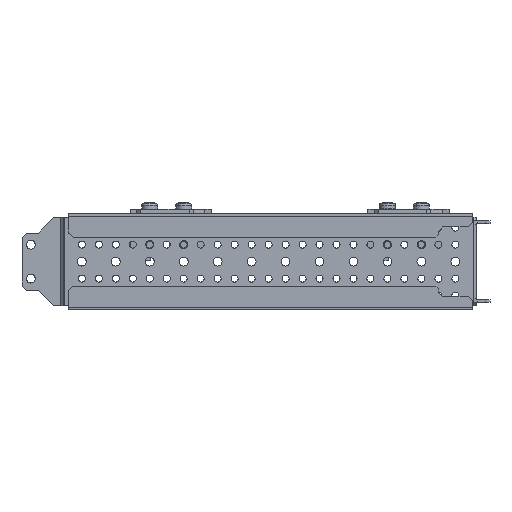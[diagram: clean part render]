
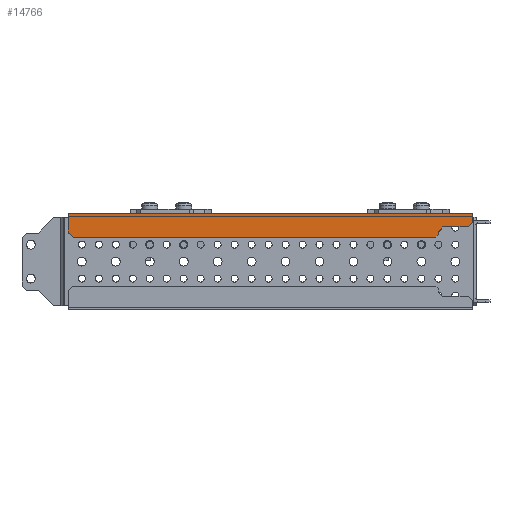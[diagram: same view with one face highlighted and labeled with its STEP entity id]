
A CAD part, front view. The second image highlights one B-rep face of the part: STEP entity #14766.
In plain terms, the highlighted planar face has unit normal (0, -1, 0) as drawn and (0, 1, 0) by its records, which use the part's own axes.
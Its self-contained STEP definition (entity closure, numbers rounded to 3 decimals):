
#57 = LINE ( 'NONE', #1538, #2800 ) ;
#533 = CARTESIAN_POINT ( 'NONE',  ( 146.989, 279., -25.5 ) ) ;
#803 = CARTESIAN_POINT ( 'NONE',  ( 124.989, 279., -22.5 ) ) ;
#1012 = AXIS2_PLACEMENT_3D ( 'NONE', #6984, #13058, #17615 ) ;
#1373 = EDGE_CURVE ( 'NONE', #3730, #9313, #57, .T. ) ;
#1502 = EDGE_CURVE ( 'NONE', #9733, #19065, #12788, .T. ) ;
#1538 = CARTESIAN_POINT ( 'NONE',  ( 37.373, 279., 117.655 ) ) ;
#1562 = VERTEX_POINT ( 'NONE', #12045 ) ;
#2057 = CARTESIAN_POINT ( 'NONE',  ( 127.989, 279., -25.5 ) ) ;
#2400 = LINE ( 'NONE', #16127, #10228 ) ;
#2766 = EDGE_LOOP ( 'NONE', ( #19436, #14630, #11723, #13113, #4324, #17359, #13589, #8988, #11158, #13672, #3011, #15131 ) ) ;
#2800 = VECTOR ( 'NONE', #2828, 1000. ) ;
#2828 = DIRECTION ( 'NONE',  ( 0.8, 0., 0.6 ) ) ;
#2845 = VECTOR ( 'NONE', #7290, 1000. ) ;
#2950 = VERTEX_POINT ( 'NONE', #803 ) ;
#3011 = ORIENTED_EDGE ( 'NONE', *, *, #15360, .T. ) ;
#3036 = CARTESIAN_POINT ( 'NONE',  ( 149.989, 279., -28.5 ) ) ;
#3475 = CARTESIAN_POINT ( 'NONE',  ( 122.989, 279., -18. ) ) ;
#3730 = VERTEX_POINT ( 'NONE', #13652 ) ;
#3747 = DIRECTION ( 'NONE',  ( 0., 0., -1. ) ) ;
#3945 = LINE ( 'NONE', #11976, #10582 ) ;
#3951 = CARTESIAN_POINT ( 'NONE',  ( -143.5, 279., -18. ) ) ;
#3988 = LINE ( 'NONE', #11654, #8495 ) ;
#4307 = CARTESIAN_POINT ( 'NONE',  ( 149.989, 279., -32.5 ) ) ;
#4324 = ORIENTED_EDGE ( 'NONE', *, *, #7437, .T. ) ;
#4943 = LINE ( 'NONE', #12426, #19354 ) ;
#5660 = EDGE_CURVE ( 'NONE', #2950, #9733, #6900, .T. ) ;
#6463 = DIRECTION ( 'NONE',  ( 0.707, 0., -0.707 ) ) ;
#6880 = LINE ( 'NONE', #15555, #13721 ) ;
#6900 = LINE ( 'NONE', #8683, #2845 ) ;
#6935 = CARTESIAN_POINT ( 'NONE',  ( 140.239, 279., -35.25 ) ) ;
#6984 = CARTESIAN_POINT ( 'NONE',  ( 146.989, 279., -28.5 ) ) ;
#7290 = DIRECTION ( 'NONE',  ( 0.707, 0., -0.707 ) ) ;
#7317 = EDGE_CURVE ( 'NONE', #15775, #13206, #6880, .T. ) ;
#7373 = DIRECTION ( 'NONE',  ( 0., 0., 1. ) ) ;
#7437 = EDGE_CURVE ( 'NONE', #1562, #14811, #2400, .T. ) ;
#8084 = CARTESIAN_POINT ( 'NONE',  ( 124.989, 279., -20. ) ) ;
#8290 = EDGE_CURVE ( 'NONE', #13206, #1562, #3945, .T. ) ;
#8495 = VECTOR ( 'NONE', #7373, 1000. ) ;
#8497 = EDGE_CURVE ( 'NONE', #13723, #14811, #9373, .T. ) ;
#8667 = EDGE_CURVE ( 'NONE', #13723, #3730, #3988, .T. ) ;
#8683 = CARTESIAN_POINT ( 'NONE',  ( 124.989, 279., -22.5 ) ) ;
#8754 = LINE ( 'NONE', #8967, #9145 ) ;
#8854 = CARTESIAN_POINT ( 'NONE',  ( -147.5, 279., -35.5 ) ) ;
#8967 = CARTESIAN_POINT ( 'NONE',  ( 146.989, 279., -18. ) ) ;
#8988 = ORIENTED_EDGE ( 'NONE', *, *, #1373, .T. ) ;
#9145 = VECTOR ( 'NONE', #11759, 1000. ) ;
#9230 = EDGE_CURVE ( 'NONE', #12068, #14518, #14208, .T. ) ;
#9313 = VERTEX_POINT ( 'NONE', #3951 ) ;
#9373 = LINE ( 'NONE', #11171, #18019 ) ;
#9642 = DIRECTION ( 'NONE',  ( 0.707, 0., -0.707 ) ) ;
#9733 = VERTEX_POINT ( 'NONE', #2057 ) ;
#9786 = DIRECTION ( 'NONE',  ( 1., 0., 0. ) ) ;
#9870 = DIRECTION ( 'NONE',  ( 0., 0., -1. ) ) ;
#10228 = VECTOR ( 'NONE', #12950, 1000. ) ;
#10582 = VECTOR ( 'NONE', #3747, 1000. ) ;
#11158 = ORIENTED_EDGE ( 'NONE', *, *, #17695, .T. ) ;
#11171 = CARTESIAN_POINT ( 'NONE',  ( -147.5, 279., -28.5 ) ) ;
#11567 = FACE_OUTER_BOUND ( 'NONE', #2766, .T. ) ;
#11654 = CARTESIAN_POINT ( 'NONE',  ( -147.5, 279., -28.5 ) ) ;
#11723 = ORIENTED_EDGE ( 'NONE', *, *, #7317, .T. ) ;
#11759 = DIRECTION ( 'NONE',  ( 1., 0., 0. ) ) ;
#11864 = CARTESIAN_POINT ( 'NONE',  ( 146.989, 279., -25.5 ) ) ;
#11976 = CARTESIAN_POINT ( 'NONE',  ( 149.989, 279., -32.5 ) ) ;
#12018 = VECTOR ( 'NONE', #9642, 1000. ) ;
#12045 = CARTESIAN_POINT ( 'NONE',  ( 149.989, 279., -35.5 ) ) ;
#12068 = VERTEX_POINT ( 'NONE', #3475 ) ;
#12155 = LINE ( 'NONE', #18206, #14023 ) ;
#12426 = CARTESIAN_POINT ( 'NONE',  ( 124.989, 279., -28.5 ) ) ;
#12788 = LINE ( 'NONE', #533, #18055 ) ;
#12950 = DIRECTION ( 'NONE',  ( -1., 0., 0. ) ) ;
#13058 = DIRECTION ( 'NONE',  ( 0., 1., 0. ) ) ;
#13113 = ORIENTED_EDGE ( 'NONE', *, *, #8290, .T. ) ;
#13206 = VERTEX_POINT ( 'NONE', #4307 ) ;
#13589 = ORIENTED_EDGE ( 'NONE', *, *, #8667, .T. ) ;
#13613 = DIRECTION ( 'NONE',  ( 0., 0., -1. ) ) ;
#13652 = CARTESIAN_POINT ( 'NONE',  ( -147.5, 279., -21. ) ) ;
#13657 = EDGE_CURVE ( 'NONE', #19065, #15775, #12155, .T. ) ;
#13672 = ORIENTED_EDGE ( 'NONE', *, *, #9230, .T. ) ;
#13721 = VECTOR ( 'NONE', #9870, 1000. ) ;
#13723 = VERTEX_POINT ( 'NONE', #15333 ) ;
#14023 = VECTOR ( 'NONE', #6463, 1000. ) ;
#14208 = LINE ( 'NONE', #6935, #12018 ) ;
#14368 = DIRECTION ( 'NONE',  ( 0., 0., -1. ) ) ;
#14518 = VERTEX_POINT ( 'NONE', #8084 ) ;
#14630 = ORIENTED_EDGE ( 'NONE', *, *, #13657, .T. ) ;
#14766 = ADVANCED_FACE ( 'NONE', ( #11567 ), #16047, .T. ) ;
#14811 = VERTEX_POINT ( 'NONE', #8854 ) ;
#15131 = ORIENTED_EDGE ( 'NONE', *, *, #5660, .T. ) ;
#15333 = CARTESIAN_POINT ( 'NONE',  ( -147.5, 279., -32.5 ) ) ;
#15360 = EDGE_CURVE ( 'NONE', #14518, #2950, #4943, .T. ) ;
#15555 = CARTESIAN_POINT ( 'NONE',  ( 149.989, 279., -28.5 ) ) ;
#15775 = VERTEX_POINT ( 'NONE', #3036 ) ;
#16047 = PLANE ( 'NONE',  #1012 ) ;
#16127 = CARTESIAN_POINT ( 'NONE',  ( 0., 279., -35.5 ) ) ;
#17359 = ORIENTED_EDGE ( 'NONE', *, *, #8497, .F. ) ;
#17615 = DIRECTION ( 'NONE',  ( 0., 0., -1. ) ) ;
#17695 = EDGE_CURVE ( 'NONE', #9313, #12068, #8754, .T. ) ;
#18019 = VECTOR ( 'NONE', #14368, 1000. ) ;
#18055 = VECTOR ( 'NONE', #9786, 1000. ) ;
#18206 = CARTESIAN_POINT ( 'NONE',  ( 148.489, 279., -27. ) ) ;
#19065 = VERTEX_POINT ( 'NONE', #11864 ) ;
#19354 = VECTOR ( 'NONE', #13613, 1000. ) ;
#19436 = ORIENTED_EDGE ( 'NONE', *, *, #1502, .T. ) ;
